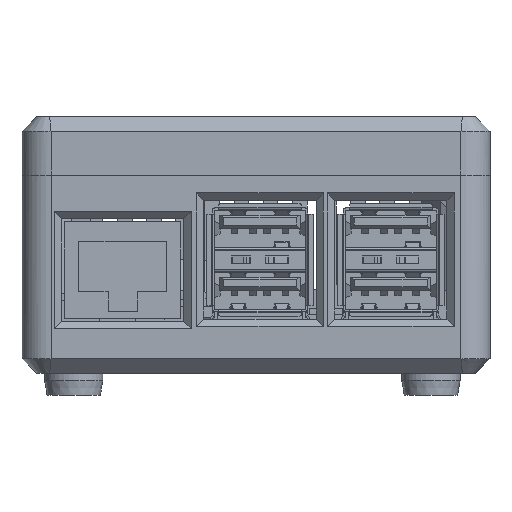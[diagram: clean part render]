
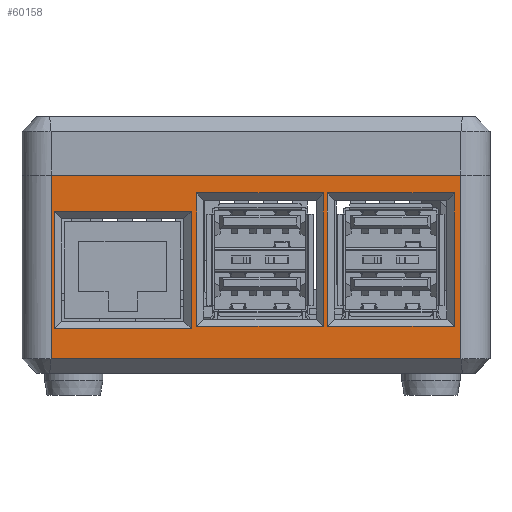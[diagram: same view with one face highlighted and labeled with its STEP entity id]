
A CAD part, front view. The second image highlights one B-rep face of the part: STEP entity #60158.
In plain terms, the highlighted planar face has unit normal (0, -1, 0).
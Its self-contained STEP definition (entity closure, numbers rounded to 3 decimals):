
#886=FACE_BOUND('',#9692,.T.);
#887=FACE_BOUND('',#9693,.T.);
#888=FACE_BOUND('',#9694,.T.);
#6136=FACE_OUTER_BOUND('',#9691,.T.);
#9691=EDGE_LOOP('',(#54338,#54339,#54340,#54341));
#9692=EDGE_LOOP('',(#54342,#54343,#54344,#54345));
#9693=EDGE_LOOP('',(#54346,#54347,#54348,#54349));
#9694=EDGE_LOOP('',(#54350,#54351,#54352,#54353));
#16306=LINE('',#98371,#23235);
#16597=LINE('',#99103,#23526);
#16601=LINE('',#99112,#23530);
#16605=LINE('',#99117,#23534);
#16606=LINE('',#99119,#23535);
#16609=LINE('',#99125,#23538);
#16610=LINE('',#99127,#23539);
#16611=LINE('',#99128,#23540);
#16612=LINE('',#99131,#23541);
#16613=LINE('',#99133,#23542);
#16614=LINE('',#99135,#23543);
#16615=LINE('',#99136,#23544);
#16616=LINE('',#99139,#23545);
#16617=LINE('',#99141,#23546);
#16618=LINE('',#99143,#23547);
#16619=LINE('',#99144,#23548);
#23235=VECTOR('',#80363,10.);
#23526=VECTOR('',#81112,10.);
#23530=VECTOR('',#81118,10.);
#23534=VECTOR('',#81124,10.);
#23535=VECTOR('',#81127,10.);
#23538=VECTOR('',#81134,10.);
#23539=VECTOR('',#81135,10.);
#23540=VECTOR('',#81136,10.);
#23541=VECTOR('',#81137,10.);
#23542=VECTOR('',#81138,10.);
#23543=VECTOR('',#81139,10.);
#23544=VECTOR('',#81140,10.);
#23545=VECTOR('',#81141,10.);
#23546=VECTOR('',#81142,10.);
#23547=VECTOR('',#81143,10.);
#23548=VECTOR('',#81144,10.);
#28970=VERTEX_POINT('',#98368);
#28971=VERTEX_POINT('',#98370);
#29164=VERTEX_POINT('',#99101);
#29165=VERTEX_POINT('',#99102);
#29168=VERTEX_POINT('',#99110);
#29169=VERTEX_POINT('',#99111);
#29170=VERTEX_POINT('',#99124);
#29171=VERTEX_POINT('',#99126);
#29172=VERTEX_POINT('',#99129);
#29173=VERTEX_POINT('',#99130);
#29174=VERTEX_POINT('',#99132);
#29175=VERTEX_POINT('',#99134);
#29176=VERTEX_POINT('',#99137);
#29177=VERTEX_POINT('',#99138);
#29178=VERTEX_POINT('',#99140);
#29179=VERTEX_POINT('',#99142);
#37239=EDGE_CURVE('',#28971,#28970,#16306,.T.);
#37597=EDGE_CURVE('',#29164,#29165,#16597,.T.);
#37601=EDGE_CURVE('',#29168,#29169,#16601,.T.);
#37605=EDGE_CURVE('',#29169,#29164,#16605,.T.);
#37606=EDGE_CURVE('',#29165,#29168,#16606,.T.);
#37609=EDGE_CURVE('',#29170,#28970,#16609,.T.);
#37610=EDGE_CURVE('',#29171,#29170,#16610,.T.);
#37611=EDGE_CURVE('',#28971,#29171,#16611,.T.);
#37612=EDGE_CURVE('',#29172,#29173,#16612,.T.);
#37613=EDGE_CURVE('',#29174,#29172,#16613,.T.);
#37614=EDGE_CURVE('',#29175,#29174,#16614,.T.);
#37615=EDGE_CURVE('',#29173,#29175,#16615,.T.);
#37616=EDGE_CURVE('',#29176,#29177,#16616,.T.);
#37617=EDGE_CURVE('',#29178,#29176,#16617,.T.);
#37618=EDGE_CURVE('',#29179,#29178,#16618,.T.);
#37619=EDGE_CURVE('',#29177,#29179,#16619,.T.);
#54338=ORIENTED_EDGE('',*,*,#37239,.T.);
#54339=ORIENTED_EDGE('',*,*,#37609,.F.);
#54340=ORIENTED_EDGE('',*,*,#37610,.F.);
#54341=ORIENTED_EDGE('',*,*,#37611,.F.);
#54342=ORIENTED_EDGE('',*,*,#37612,.F.);
#54343=ORIENTED_EDGE('',*,*,#37613,.F.);
#54344=ORIENTED_EDGE('',*,*,#37614,.F.);
#54345=ORIENTED_EDGE('',*,*,#37615,.F.);
#54346=ORIENTED_EDGE('',*,*,#37616,.F.);
#54347=ORIENTED_EDGE('',*,*,#37617,.F.);
#54348=ORIENTED_EDGE('',*,*,#37618,.F.);
#54349=ORIENTED_EDGE('',*,*,#37619,.F.);
#54350=ORIENTED_EDGE('',*,*,#37601,.F.);
#54351=ORIENTED_EDGE('',*,*,#37606,.F.);
#54352=ORIENTED_EDGE('',*,*,#37597,.F.);
#54353=ORIENTED_EDGE('',*,*,#37605,.F.);
#57056=PLANE('',#65074);
#60158=ADVANCED_FACE('',(#6136,#886,#887,#888),#57056,.T.);
#65074=AXIS2_PLACEMENT_3D('',#99123,#81132,#81133);
#80363=DIRECTION('',(-1.,0.,0.));
#81112=DIRECTION('',(0.,0.,1.));
#81118=DIRECTION('',(0.,0.,-1.));
#81124=DIRECTION('',(1.,0.,0.));
#81127=DIRECTION('',(-1.,0.,0.));
#81132=DIRECTION('center_axis',(0.,-1.,0.));
#81133=DIRECTION('ref_axis',(1.,0.,0.));
#81134=DIRECTION('',(0.,0.,1.));
#81135=DIRECTION('',(-1.,0.,0.));
#81136=DIRECTION('',(0.,0.,-1.));
#81137=DIRECTION('',(0.,0.,-1.));
#81138=DIRECTION('',(-1.,0.,0.));
#81139=DIRECTION('',(0.,0.,1.));
#81140=DIRECTION('',(1.,0.,0.));
#81141=DIRECTION('',(1.,0.,0.));
#81142=DIRECTION('',(0.,0.,-1.));
#81143=DIRECTION('',(-1.,0.,0.));
#81144=DIRECTION('',(0.,0.,1.));
#98368=CARTESIAN_POINT('',(-27.6,-47.,21.8));
#98370=CARTESIAN_POINT('',(28.6,-47.,21.8));
#98371=CARTESIAN_POINT('',(0.5,-47.,21.8));
#99101=CARTESIAN_POINT('',(27.7,-47.,1.05));
#99102=CARTESIAN_POINT('',(27.7,-47.,19.35));
#99103=CARTESIAN_POINT('',(27.7,-47.,6.475));
#99110=CARTESIAN_POINT('',(10.3,-47.,19.35));
#99111=CARTESIAN_POINT('',(10.3,-47.,1.05));
#99112=CARTESIAN_POINT('',(10.3,-47.,-1.675));
#99117=CARTESIAN_POINT('',(-2.45,-47.,1.05));
#99119=CARTESIAN_POINT('',(-10.15,-47.,19.35));
#99123=CARTESIAN_POINT('Origin',(-31.6,-47.,-5.4));
#99124=CARTESIAN_POINT('',(-27.6,-47.,-3.4));
#99125=CARTESIAN_POINT('',(-27.6,-47.,-5.4));
#99126=CARTESIAN_POINT('',(28.6,-47.,-3.4));
#99127=CARTESIAN_POINT('',(-15.55,-47.,-3.4));
#99128=CARTESIAN_POINT('',(28.6,-47.,-5.4));
#99129=CARTESIAN_POINT('',(-7.65,-47.,19.35));
#99130=CARTESIAN_POINT('',(-7.65,-47.,1.05));
#99131=CARTESIAN_POINT('',(-7.65,-47.,-1.675));
#99132=CARTESIAN_POINT('',(9.75,-47.,19.35));
#99133=CARTESIAN_POINT('',(-19.125,-47.,19.35));
#99134=CARTESIAN_POINT('',(9.75,-47.,1.05));
#99135=CARTESIAN_POINT('',(9.75,-47.,6.475));
#99136=CARTESIAN_POINT('',(-11.425,-47.,1.05));
#99137=CARTESIAN_POINT('',(-27.2,-47.,0.7));
#99138=CARTESIAN_POINT('',(-8.4,-47.,0.7));
#99139=CARTESIAN_POINT('',(-20.5,-47.,0.7));
#99140=CARTESIAN_POINT('',(-27.2,-47.,16.8));
#99141=CARTESIAN_POINT('',(-27.2,-47.,-1.85));
#99142=CARTESIAN_POINT('',(-8.4,-47.,16.8));
#99143=CARTESIAN_POINT('',(-28.9,-47.,16.8));
#99144=CARTESIAN_POINT('',(-8.4,-47.,5.2));
